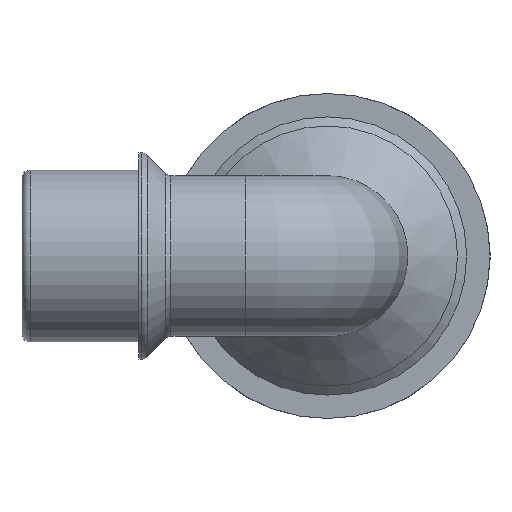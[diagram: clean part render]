
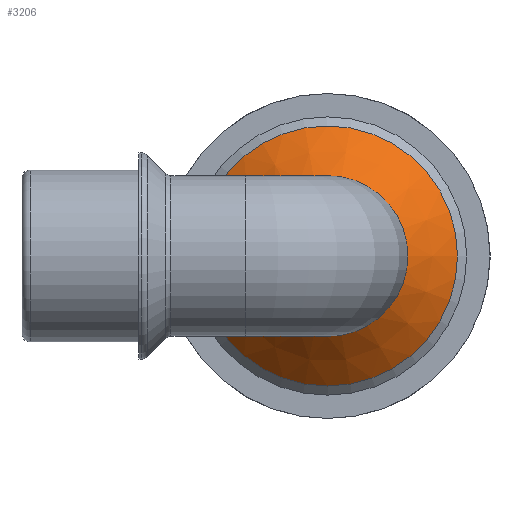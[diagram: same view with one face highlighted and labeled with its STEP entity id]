
A CAD part, left-side view. The second image highlights one B-rep face of the part: STEP entity #3206.
In plain terms, the highlighted conical face has half-angle 45 degrees and reference radius 16.181 mm.
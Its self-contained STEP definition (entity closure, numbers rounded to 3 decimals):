
#22=CONICAL_SURFACE('',#3589,16.181,45.);
#639=FACE_BOUND('',#1077,.T.);
#851=FACE_OUTER_BOUND('',#1076,.T.);
#1076=EDGE_LOOP('',(#2918));
#1077=EDGE_LOOP('',(#2919));
#1105=CIRCLE('',#3227,12.361);
#1271=CIRCLE('',#3590,20.);
#1285=VERTEX_POINT('',#4589);
#1547=VERTEX_POINT('',#6088);
#1561=EDGE_CURVE('',#1285,#1285,#1105,.T.);
#2009=EDGE_CURVE('',#1547,#1547,#1271,.T.);
#2918=ORIENTED_EDGE('',*,*,#2009,.F.);
#2919=ORIENTED_EDGE('',*,*,#1561,.T.);
#3206=ADVANCED_FACE('',(#851,#639),#22,.T.);
#3227=AXIS2_PLACEMENT_3D('',#4590,#3627,#3628);
#3589=AXIS2_PLACEMENT_3D('',#6087,#4531,#4532);
#3590=AXIS2_PLACEMENT_3D('',#6089,#4533,#4534);
#3627=DIRECTION('center_axis',(1.,0.,0.));
#3628=DIRECTION('ref_axis',(0.,0.,-1.));
#4531=DIRECTION('center_axis',(1.,0.,0.));
#4532=DIRECTION('ref_axis',(0.,1.,0.));
#4533=DIRECTION('center_axis',(1.,0.,0.));
#4534=DIRECTION('ref_axis',(0.,0.,-1.));
#4589=CARTESIAN_POINT('',(12.65,12.361,0.));
#4590=CARTESIAN_POINT('Origin',(12.65,0.,0.));
#6087=CARTESIAN_POINT('Origin',(16.469,0.,0.));
#6088=CARTESIAN_POINT('',(20.289,20.,0.));
#6089=CARTESIAN_POINT('Origin',(20.289,0.,0.));
